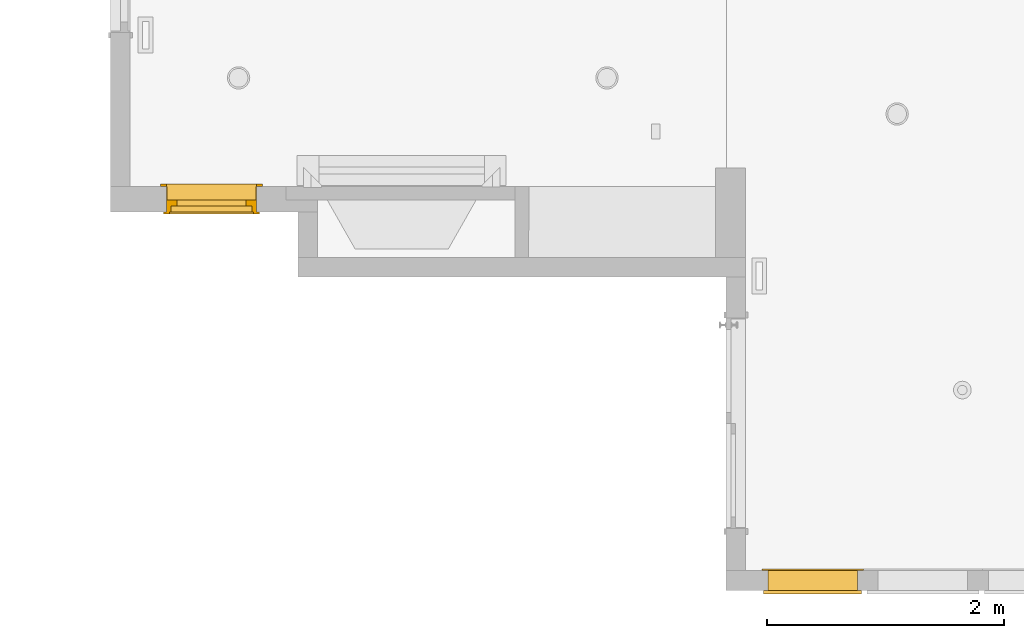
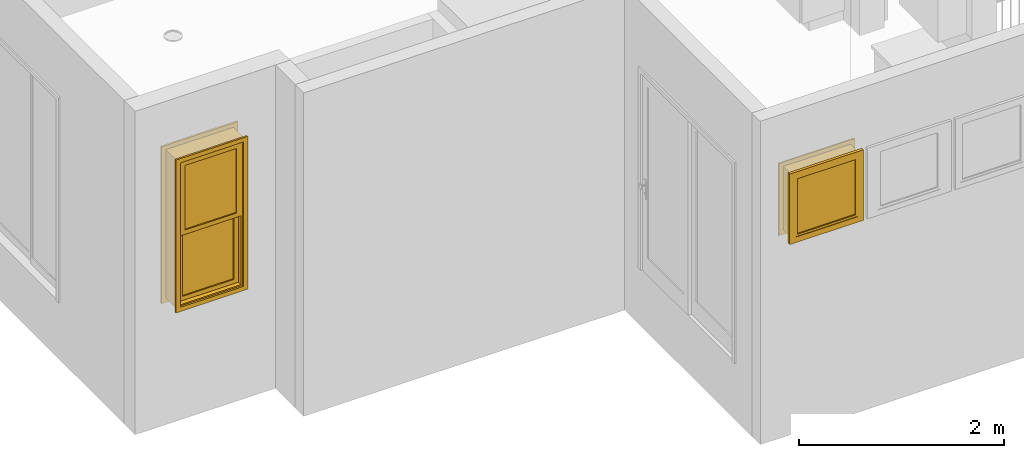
# One storey, part 32 of 77: 2 windows.
"""IFC2X3 building model written with IfcOpenShell, lengths in inches."""

import ifcopenshell
import ifcopenshell.guid

model = None  # the IFC model being written
_history = None  # IfcOwnerHistory: only IFC2X3 demands one
_inside = {}  # id of a spatial element -> (the spatial element, [elements in it])
_under = {}  # id of a project, library or spatial element -> (it, [spatial elements below it])
_declared = {}  # id of a project -> (the project, [libraries it declares])
_typed = {}  # id of a type object -> (the type object, [elements of that type])
_made_of = {}  # id of a material, layer set ... -> (it, [elements and type objects made of it])


def new_model(schema):
    """Start an empty IFC model of exactly this schema.

    Asked for "IFC4X3", IfcOpenShell would pick the latest addendum, in which some entities
    have other attributes; the version numbers below select the first issue.
    IFC2X3 requires an IfcOwnerHistory on every rooted entity: one is made here for all.
    """
    global model, _history
    if schema == "IFC4X3":
        model = ifcopenshell.file(schema_version=(4, 3, 0, 0))
    else:
        model = ifcopenshell.file(schema=schema)
    _inside.clear()
    _under.clear()
    _declared.clear()
    _typed.clear()
    _made_of.clear()
    _history = None
    if model.schema == "IFC2X3":
        org = make("IfcOrganization", Name="unknown")
        user = make(
            "IfcPersonAndOrganization",
            ThePerson=make("IfcPerson", FamilyName="unknown"),
            TheOrganization=org,
        )
        app = make(
            "IfcApplication",
            ApplicationDeveloper=org,
            Version="unknown",
            ApplicationFullName="unknown",
            ApplicationIdentifier="unknown",
        )
        _history = make(
            "IfcOwnerHistory",
            OwningUser=user,
            OwningApplication=app,
            ChangeAction="ADDED",
            CreationDate=0,
        )
    return model


def make(cls, **values):
    """One entity of the class cls with the attributes given. An attribute that is None is left unset."""
    return model.create_entity(
        cls, **{name: value for name, value in values.items() if value is not None}
    )


def entity(cls, *values):
    """Any entity or typed value of the class cls, its attributes in the order of the schema. None: left unset."""
    e = model.create_entity(cls)
    for i, value in enumerate(values):
        if value is not None:
            e[i] = value
    return e


def rooted(cls, **values):
    """An entity with a GlobalId (a new one), such as an element, a storey or a relation."""
    return make(cls, GlobalId=ifcopenshell.guid.new(), OwnerHistory=_history, **values)


def si_unit(unit_type, name, prefix=None):
    """IfcSIUnit, for example si_unit("LENGTHUNIT", "METRE", prefix="MILLI")."""
    return make("IfcSIUnit", UnitType=unit_type, Prefix=prefix, Name=name)


def converted_unit(unit_type, name, factor, base, dimensions=None, offset=None):
    """IfcConversionBasedUnit, such as the inch: factor (a typed value) times the base unit."""
    return make(
        "IfcConversionBasedUnit"
        if offset is None
        else "IfcConversionBasedUnitWithOffset",
        ConversionOffset=offset,
        Dimensions=None
        if dimensions is None
        else entity("IfcDimensionalExponents", *dimensions),
        UnitType=unit_type,
        Name=name,
        ConversionFactor=make(
            "IfcMeasureWithUnit", ValueComponent=factor, UnitComponent=base
        ),
    )


def derived_unit(unit_type, elements):
    """IfcDerivedUnit: a product of units, each with its exponent."""
    return make(
        "IfcDerivedUnit",
        Elements=[
            make("IfcDerivedUnitElement", Unit=unit, Exponent=power)
            for unit, power in elements
        ],
        UnitType=unit_type,
    )


def money_unit(currency):
    """IfcMonetaryUnit."""
    return make("IfcMonetaryUnit", Currency=currency)


def assignment(units):
    """IfcUnitAssignment: the units of a project."""
    return None if units is None else make("IfcUnitAssignment", Units=units)


def point(xyz):
    """IfcCartesianPoint."""
    return None if xyz is None else make("IfcCartesianPoint", Coordinates=xyz)


def direction(xyz):
    """IfcDirection."""
    return None if xyz is None else make("IfcDirection", DirectionRatios=xyz)


def frame(location, z_axis=None, x_axis=None):
    """IfcAxis2Placement3D, a coordinate frame: its origin and axes. An axis left out is left unset."""
    return make(
        "IfcAxis2Placement3D",
        Location=point(location),
        Axis=direction(z_axis),
        RefDirection=direction(x_axis),
    )


def origin_with_axes():
    """The frame at (0, 0, 0) with the z axis (0, 0, 1) and the x axis (1, 0, 0) written out."""
    return frame((0.0, 0.0, 0.0), z_axis=(0.0, 0.0, 1.0), x_axis=(1.0, 0.0, 0.0))


def place(relative_to, where):
    """IfcLocalPlacement: puts the frame where relative to a parent placement (None: the world)."""
    return make(
        "IfcLocalPlacement", PlacementRelTo=relative_to, RelativePlacement=where
    )


def context(
    kind, dimensions, precision=None, world=None, true_north=None, identifier=None
):
    """IfcGeometricRepresentationContext, for example the 3D "Model" context."""
    return make(
        "IfcGeometricRepresentationContext",
        ContextIdentifier=identifier,
        ContextType=kind,
        CoordinateSpaceDimension=dimensions,
        Precision=precision,
        WorldCoordinateSystem=world,
        TrueNorth=true_north,
    )


def subcontext(parent, identifier, kind, view, scale=None):
    """IfcGeometricRepresentationSubContext, for example "Body" below "Model"."""
    return make(
        "IfcGeometricRepresentationSubContext",
        ContextIdentifier=identifier,
        ContextType=kind,
        ParentContext=parent,
        TargetScale=scale,
        TargetView=view,
    )


def project(units=None, contexts=None):
    """IfcProject with its units and contexts."""
    return rooted(
        "IfcProject",
        Name="project",
        RepresentationContexts=contexts,
        UnitsInContext=assignment(units),
    )


def spatial(cls, under=None, at=None, **own):
    """A site, building, storey or space (cls), placed at a placement, below another one or the project."""
    s = rooted(cls, ObjectPlacement=at, **own)
    if under is not None:
        _under.setdefault(under.id(), (under, []))[1].append(s)
    return s


def faces_of(points, faces, orient=None, outer=None):
    """IfcFace entities. A face is a list of loops; a loop is a list of indices into points, from 0.

    orient and outer hold one flag for each loop. By default every Orientation is true, the
    first loop of a face is its IfcFaceOuterBound and the others are IfcFaceBound.
    """
    made = []
    for i, loops in enumerate(faces):
        bounds = []
        for j, loop in enumerate(loops):
            is_outer = j == 0 if outer is None else outer[i][j]
            bounds.append(
                make(
                    "IfcFaceOuterBound" if is_outer else "IfcFaceBound",
                    Bound=make("IfcPolyLoop", Polygon=[points[k] for k in loop]),
                    Orientation=True if orient is None else orient[i][j],
                )
            )
        made.append(make("IfcFace", Bounds=bounds))
    return made


def open_shell(faces, orient=None, outer=None):
    """The faces of one IfcOpenShell. surface_model builds it on its shared points."""
    return ("IfcOpenShell", faces, orient, outer)


def faceted_brep(points, faces, orient=None, outer=None, voids=None):
    """IfcFacetedBrep: a solid bounded by flat faces; with voids (closed shells), ...WithVoids."""
    shared = [point(p) for p in points]
    hull = make("IfcClosedShell", CfsFaces=faces_of(shared, faces, orient, outer))
    if voids is None:
        return make("IfcFacetedBrep", Outer=hull)
    return make(
        "IfcFacetedBrepWithVoids",
        Outer=hull,
        Voids=[
            make(cls, CfsFaces=faces_of(shared, fs, o, b)) for cls, fs, o, b in voids
        ],
    )


def surface_model(cls, points, shells):
    """IfcFaceBasedSurfaceModel or IfcShellBasedSurfaceModel (cls): surfaces that need not close."""
    shared = [point(p) for p in points]
    made = [make(c, CfsFaces=faces_of(shared, fs, o, b)) for c, fs, o, b in shells]
    if cls == "IfcFaceBasedSurfaceModel":
        return make(cls, FbsmFaces=made)
    return make(cls, SbsmBoundary=made)


def shape(context_of_items, identifier, shape_type, items):
    """IfcShapeRepresentation: the items that make up one representation, for example the "Body"."""
    return make(
        "IfcShapeRepresentation",
        ContextOfItems=context_of_items,
        RepresentationIdentifier=identifier,
        RepresentationType=shape_type,
        Items=items,
    )


def made_of(thing, what):
    """Note that an element or type object is made of a material, layer set ...; save() writes the relation."""
    if what is not None:
        _made_of.setdefault(what.id(), (what, []))[1].append(thing)
    return thing


def type_object(cls, material=None, **own):
    """A type object (cls), such as IfcWallType, which elements share."""
    return made_of(rooted(cls, **own), material)


def element(
    cls,
    number,
    at=None,
    inside=None,
    cuts=None,
    type_object=None,
    material=None,
    context=None,
    identifier="Body",
    shape_type=None,
    held_by="IfcProductDefinitionShape",
    body=None,
    shapes=None,
    **own,
):
    """One element of the class cls, such as IfcWall. Its Tag is "e" and its number.

    at: its placement. inside: the storey or other place that contains it. cuts: it is an
    opening in that element (IfcRelVoidsElement). A single representation is given by context,
    identifier, shape_type and body (its items); several are given by shapes. held_by: the class
    of the entity that holds the representations. save() writes the other relations.
    """
    e = rooted(cls, Tag="e%d" % number, ObjectPlacement=at, **own)
    if body is not None:
        shapes = [shape(context, identifier, shape_type, body)]
    if shapes is not None:
        e.Representation = make(held_by, Representations=shapes)
    if inside is not None:
        _inside.setdefault(inside.id(), (inside, []))[1].append(e)
    if cuts is not None:
        rooted(
            "IfcRelVoidsElement", RelatingBuildingElement=cuts, RelatedOpeningElement=e
        )
    if type_object is not None:
        _typed.setdefault(type_object.id(), (type_object, []))[1].append(e)
    return made_of(e, material)


def aggregate(whole, parts):
    """IfcRelAggregates: a whole, such as a stair, and the parts it consists of."""
    return rooted("IfcRelAggregates", RelatingObject=whole, RelatedObjects=parts)


def save(model, path):
    """Write the relations noted so far, then the file.

    IfcRelAggregates (storeys below a building ...), IfcRelContainedInSpatialStructure (elements
    in a storey), IfcRelDefinesByType, IfcRelAssociatesMaterial and IfcRelDeclares: one each for
    every whole, place, type object, material and project.
    """
    for whole, parts in _under.values():
        aggregate(whole, parts)
    for where, things in _inside.values():
        rooted(
            "IfcRelContainedInSpatialStructure",
            RelatedElements=things,
            RelatingStructure=where,
        )
    for kind, things in _typed.values():
        rooted("IfcRelDefinesByType", RelatedObjects=things, RelatingType=kind)
    for what, things in _made_of.values():
        rooted("IfcRelAssociatesMaterial", RelatedObjects=things, RelatingMaterial=what)
    for by, libraries in _declared.values():
        rooted("IfcRelDeclares", RelatingContext=by, RelatedDefinitions=libraries)
    model.write(path)


model = new_model("IFC2X3")

# Units and contexts
model_context = context("Model", 3, precision=0.000393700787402, world=origin_with_axes(), true_north=direction((0.0, 1.0)))
body_context = subcontext(model_context, "Body", "Model", "MODEL_VIEW")
ifc_project = project(units=[converted_unit("LENGTHUNIT", "INCH", entity("IfcPositiveLengthMeasure", 0.0254), si_unit("LENGTHUNIT", "METRE"), dimensions=[1, 0, 0, 0, 0, 0, 0]), converted_unit("AREAUNIT", "SQUARE_FOOT", entity("IfcPositiveLengthMeasure", 0.09290304), si_unit("AREAUNIT", "SQUARE_METRE"), dimensions=[2, 0, 0, 0, 0, 0, 0]), si_unit("PLANEANGLEUNIT", "RADIAN"), si_unit("SOLIDANGLEUNIT", "STERADIAN"), money_unit("USD"), converted_unit("TIMEUNIT", "Year", entity("IfcTimeMeasure", 31556926.0), si_unit("TIMEUNIT", "SECOND"), dimensions=[0, 0, 1, 0, 0, 0, 0]), si_unit("MASSUNIT", "GRAM", prefix="KILO"), si_unit("THERMODYNAMICTEMPERATUREUNIT", "DEGREE_CELSIUS"), si_unit("LUMINOUSINTENSITYUNIT", "LUMEN"), si_unit("ENERGYUNIT", "JOULE", prefix="MEGA"), derived_unit("THERMALCONDUCTANCEUNIT", [(si_unit("POWERUNIT", "WATT"), 1), (si_unit("LENGTHUNIT", "METRE"), -1), (si_unit("THERMODYNAMICTEMPERATUREUNIT", "KELVIN"), -1)]), derived_unit("SPECIFICHEATCAPACITYUNIT", [(si_unit("ENERGYUNIT", "JOULE"), 1), (si_unit("MASSUNIT", "GRAM", prefix="KILO"), -1), (si_unit("THERMODYNAMICTEMPERATUREUNIT", "KELVIN"), -1)]), derived_unit("MASSDENSITYUNIT", [(si_unit("MASSUNIT", "GRAM", prefix="KILO"), 1), (si_unit("VOLUMEUNIT", "CUBIC_METRE"), -1)])], contexts=[model_context])

# Site, building, storey
site_placement = place(None, origin_with_axes())
site = spatial("IfcSite", under=ifc_project, at=site_placement, Name="Site", CompositionType="ELEMENT")
building_placement = place(site_placement, origin_with_axes())
building = spatial("IfcBuilding", under=site, at=building_placement, Name="Building", CompositionType="ELEMENT")
storey_placement = place(building_placement, frame((0.0, 0.0, 127.952755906), z_axis=(0.0, 0.0, 1.0), x_axis=(1.0, 0.0, 0.0)))
storey = spatial("IfcBuildingStorey", under=building, at=storey_placement, Name="Second Floor", CompositionType="ELEMENT", Elevation=127.953)

# Windows
window_style_1 = type_object("IfcWindowStyle", Name="Double-Hung Window 25", ConstructionType="NOTDEFINED", OperationType="DOUBLE_PANEL_HORIZONTAL", ParameterTakesPrecedence=False, Sizeable=False)
window_1_placement = place(storey_placement, frame((296.411573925, 147.162414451, 25.3984469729), z_axis=(0.0, 0.0, 1.0), x_axis=(0.999999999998, -1.84812908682e-06, 0.0)))
element("IfcWindow", 1, at=window_1_placement, inside=storey, type_object=window_style_1, Name="W-07", OverallHeight=69.685, OverallWidth=29.9213, context=body_context, shape_type="SurfaceModel", body=[
    faceted_brep([(29.9212598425, -4.52755905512, 0.0), (0.0, -4.52755905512, 0.0), (0.0, 0.0, 0.0), (29.9212598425, 0.0, 0.0), (29.9212598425, -4.52755905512, 69.6850393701), (0.0, -4.52755905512, 69.6850393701), (29.7244094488, -4.52755905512, 0.196850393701), (0.196850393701, -4.52755905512, 0.196850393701), (0.196850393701, -4.52755905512, 69.4881889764), (29.7244094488, -4.52755905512, 69.4881889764), (0.0, 0.0, 69.6850393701), (29.9212598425, 0.0, 69.6850393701), (29.7244094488, 0.0, 0.196850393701), (29.7244094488, 0.0, 69.4881889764), (0.196850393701, 0.0, 69.4881889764), (0.196850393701, 0.0, 0.196850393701)], [[[0, 1, 2, 3]], [[0, 4, 5, 1], [6, 7, 8, 9]], [[1, 5, 10, 2]], [[3, 2, 10, 11], [12, 13, 14, 15]], [[4, 0, 3, 11]], [[5, 4, 11, 10]], [[7, 6, 12, 15]], [[8, 7, 15, 14]], [[9, 8, 14, 13]], [[6, 9, 13, 12]]]),
    faceted_brep([(31.8897637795, 0.787401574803, -1.96850393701), (31.8897637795, 0.0, -1.96850393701), (29.9212598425, 0.0, 0.0), (29.9212598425, 0.787401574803, 0.0), (31.8897637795, 0.787401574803, 71.6535433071), (31.8897637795, 0.0, 71.6535433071), (29.9212598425, 0.0, 69.6850393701), (29.9212598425, 0.787401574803, 69.6850393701)], [[[0, 1, 2, 3]], [[4, 5, 1, 0]], [[1, 5, 6, 2]], [[3, 2, 6, 7]], [[0, 3, 7, 4]], [[7, 6, 5, 4]]]),
    faceted_brep([(-1.96850393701, 0.787401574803, 71.6535433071), (-1.96850393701, 0.0, 71.6535433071), (0.0, 0.0, 69.6850393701), (0.0, 0.787401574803, 69.6850393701), (-1.96850393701, 0.787401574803, -1.96850393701), (-1.96850393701, 0.0, -1.96850393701), (0.0, 0.0, 0.0), (0.0, 0.787401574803, 0.0)], [[[0, 1, 2, 3]], [[4, 5, 1, 0]], [[1, 5, 6, 2]], [[3, 2, 6, 7]], [[0, 3, 7, 4]], [[7, 6, 5, 4]]]),
    faceted_brep([(-1.96850393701, 0.787401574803, -1.96850393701), (-1.96850393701, 0.0, -1.96850393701), (0.0, 0.0, 0.0), (0.0, 0.787401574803, 0.0), (31.8897637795, 0.787401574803, -1.96850393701), (31.8897637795, 0.0, -1.96850393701), (29.9212598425, 0.0, 0.0), (29.9212598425, 0.787401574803, 0.0)], [[[0, 1, 2, 3]], [[4, 5, 1, 0]], [[1, 5, 6, 2]], [[3, 2, 6, 7]], [[0, 3, 7, 4]], [[7, 6, 5, 4]]]),
    faceted_brep([(31.8897637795, 0.787401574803, 71.6535433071), (31.8897637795, 0.0, 71.6535433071), (29.9212598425, 0.0, 69.6850393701), (29.9212598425, 0.787401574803, 69.6850393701), (-1.96850393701, 0.787401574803, 71.6535433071), (-1.96850393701, 0.0, 71.6535433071), (0.0, 0.0, 69.6850393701), (0.0, 0.787401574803, 69.6850393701)], [[[0, 1, 2, 3]], [[4, 5, 1, 0]], [[1, 5, 6, 2]], [[3, 2, 6, 7]], [[0, 3, 7, 4]], [[7, 6, 5, 4]]]),
    faceted_brep([(30.905511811, -9.25196850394, -0.984251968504), (28.937007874, -9.25196850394, 0.984251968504), (28.937007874, -8.46456692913, 0.984251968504), (30.905511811, -8.46456692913, -0.984251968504), (30.905511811, -9.25196850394, 70.6692913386), (28.937007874, -9.25196850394, 68.7007874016), (28.937007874, -8.46456692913, 68.7007874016), (30.905511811, -8.46456692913, 70.6692913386)], [[[0, 1, 2, 3]], [[0, 4, 5, 1]], [[1, 5, 6, 2]], [[3, 2, 6, 7]], [[4, 0, 3, 7]], [[5, 4, 7, 6]]]),
    faceted_brep([(-0.984251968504, -9.25196850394, 70.6692913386), (0.984251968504, -9.25196850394, 68.7007874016), (0.984251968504, -8.46456692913, 68.7007874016), (-0.984251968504, -8.46456692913, 70.6692913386), (-0.984251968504, -9.25196850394, -0.984251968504), (0.984251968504, -9.25196850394, 0.984251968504), (0.984251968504, -8.46456692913, 0.984251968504), (-0.984251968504, -8.46456692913, -0.984251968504)], [[[0, 1, 2, 3]], [[0, 4, 5, 1]], [[1, 5, 6, 2]], [[3, 2, 6, 7]], [[4, 0, 3, 7]], [[5, 4, 7, 6]]]),
    faceted_brep([(-0.984251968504, -9.25196850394, -0.984251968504), (0.984251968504, -9.25196850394, 0.984251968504), (0.984251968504, -8.46456692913, 0.984251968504), (-0.984251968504, -8.46456692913, -0.984251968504), (30.905511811, -9.25196850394, -0.984251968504), (28.937007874, -9.25196850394, 0.984251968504), (28.937007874, -8.46456692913, 0.984251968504), (30.905511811, -8.46456692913, -0.984251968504)], [[[0, 1, 2, 3]], [[0, 4, 5, 1]], [[1, 5, 6, 2]], [[3, 2, 6, 7]], [[4, 0, 3, 7]], [[5, 4, 7, 6]]]),
    faceted_brep([(30.905511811, -9.25196850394, 70.6692913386), (28.937007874, -9.25196850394, 68.7007874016), (28.937007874, -8.46456692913, 68.7007874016), (30.905511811, -8.46456692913, 70.6692913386), (-0.984251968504, -9.25196850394, 70.6692913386), (0.984251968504, -9.25196850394, 68.7007874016), (0.984251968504, -8.46456692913, 68.7007874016), (-0.984251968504, -8.46456692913, 70.6692913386)], [[[0, 1, 2, 3]], [[0, 4, 5, 1]], [[1, 5, 6, 2]], [[3, 2, 6, 7]], [[4, 0, 3, 7]], [[5, 4, 7, 6]]]),
    faceted_brep([(28.3464566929, -8.46456692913, 68.1102362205), (29.9212598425, -8.46456692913, 68.1102362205), (29.9212598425, -4.52755905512, 68.1102362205), (28.3464566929, -4.52755905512, 68.1102362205), (28.3464566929, -8.46456692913, 1.57480314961), (29.9212598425, -8.46456692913, 1.57480314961), (29.9212598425, -4.52755905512, 1.57480314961), (28.3464566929, -4.52755905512, 1.57480314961)], [[[0, 1, 2, 3]], [[0, 4, 5, 1]], [[1, 5, 6, 2]], [[3, 2, 6, 7]], [[4, 0, 3, 7]], [[5, 4, 7, 6]]]),
    faceted_brep([(1.57480314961, -8.46456692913, 1.57480314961), (0.0, -8.46456692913, 1.57480314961), (0.0, -4.52755905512, 1.57480314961), (1.57480314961, -4.52755905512, 1.57480314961), (1.57480314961, -8.46456692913, 68.1102362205), (0.0, -8.46456692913, 68.1102362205), (0.0, -4.52755905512, 68.1102362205), (1.57480314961, -4.52755905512, 68.1102362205)], [[[0, 1, 2, 3]], [[0, 4, 5, 1]], [[1, 5, 6, 2]], [[3, 2, 6, 7]], [[4, 0, 3, 7]], [[5, 4, 7, 6]]]),
    faceted_brep([(28.3464566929, -8.46456692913, 1.57480314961), (29.9212598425, -8.46456692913, 1.57480314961), (29.9212598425, -4.52755905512, 1.57480314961), (28.3464566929, -4.52755905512, 1.57480314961), (1.57480314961, -8.46456692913, 1.57480314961), (0.0, -8.46456692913, 1.57480314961), (0.0, -8.46456692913, 0.0), (29.9212598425, -8.46456692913, 0.0), (29.9212598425, -4.52755905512, 0.0), (0.0, -4.52755905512, 0.0), (0.0, -4.52755905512, 1.57480314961), (1.57480314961, -4.52755905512, 1.57480314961)], [[[0, 1, 2, 3]], [[0, 4, 5, 6, 7, 1]], [[1, 7, 8, 2]], [[3, 2, 8, 9, 10, 11]], [[4, 0, 3, 11]], [[5, 4, 11, 10]], [[6, 5, 10, 9]], [[7, 6, 9, 8]]]),
    faceted_brep([(1.57480314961, -8.46456692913, 68.1102362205), (0.0, -8.46456692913, 68.1102362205), (0.0, -4.52755905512, 68.1102362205), (1.57480314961, -4.52755905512, 68.1102362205), (28.3464566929, -8.46456692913, 68.1102362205), (29.9212598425, -8.46456692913, 68.1102362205), (29.9212598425, -8.46456692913, 69.6850393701), (0.0, -8.46456692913, 69.6850393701), (0.0, -4.52755905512, 69.6850393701), (29.9212598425, -4.52755905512, 69.6850393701), (29.9212598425, -4.52755905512, 68.1102362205), (28.3464566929, -4.52755905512, 68.1102362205)], [[[0, 1, 2, 3]], [[0, 4, 5, 6, 7, 1]], [[1, 7, 8, 2]], [[3, 2, 8, 9, 10, 11]], [[4, 0, 3, 11]], [[5, 4, 11, 10]], [[6, 5, 10, 9]], [[7, 6, 9, 8]]]),
    faceted_brep([(26.3779527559, -6.49606299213, 33.8582677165), (28.3464566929, -6.49606299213, 33.8582677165), (28.3464566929, -4.52755905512, 33.8582677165), (26.3779527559, -4.52755905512, 33.8582677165), (26.3779527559, -6.49606299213, 3.54330708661), (28.3464566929, -6.49606299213, 3.54330708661), (28.3464566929, -4.52755905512, 3.54330708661), (26.3779527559, -4.52755905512, 3.54330708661)], [[[0, 1, 2, 3]], [[0, 4, 5, 1]], [[1, 5, 6, 2]], [[3, 2, 6, 7]], [[4, 0, 3, 7]], [[5, 4, 7, 6]]]),
    faceted_brep([(3.54330708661, -6.49606299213, 3.54330708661), (1.57480314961, -6.49606299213, 3.54330708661), (1.57480314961, -4.52755905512, 3.54330708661), (3.54330708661, -4.52755905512, 3.54330708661), (3.54330708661, -6.49606299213, 33.8582677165), (1.57480314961, -6.49606299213, 33.8582677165), (1.57480314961, -4.52755905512, 33.8582677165), (3.54330708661, -4.52755905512, 33.8582677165)], [[[0, 1, 2, 3]], [[0, 4, 5, 1]], [[1, 5, 6, 2]], [[3, 2, 6, 7]], [[4, 0, 3, 7]], [[5, 4, 7, 6]]]),
    faceted_brep([(1.57480314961, -6.49606299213, 1.57480314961), (1.57480314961, -6.49606299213, 3.54330708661), (1.57480314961, -4.52755905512, 3.54330708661), (1.57480314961, -4.52755905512, 1.57480314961), (28.3464566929, -6.49606299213, 1.57480314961), (28.3464566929, -6.49606299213, 3.54330708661), (26.3779527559, -6.49606299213, 3.54330708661), (3.54330708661, -6.49606299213, 3.54330708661), (3.54330708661, -4.52755905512, 3.54330708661), (26.3779527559, -4.52755905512, 3.54330708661), (28.3464566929, -4.52755905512, 3.54330708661), (28.3464566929, -4.52755905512, 1.57480314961)], [[[0, 1, 2, 3]], [[0, 4, 5, 6, 7, 1]], [[1, 7, 8, 2]], [[3, 2, 8, 9, 10, 11]], [[4, 0, 3, 11]], [[5, 4, 11, 10]], [[6, 5, 10, 9]], [[7, 6, 9, 8]]]),
    faceted_brep([(28.3464566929, -6.49606299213, 35.8267716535), (28.3464566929, -6.49606299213, 33.8582677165), (28.3464566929, -4.52755905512, 33.8582677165), (28.3464566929, -4.52755905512, 35.8267716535), (1.57480314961, -6.49606299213, 35.8267716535), (1.57480314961, -6.49606299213, 33.8582677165), (3.54330708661, -6.49606299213, 33.8582677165), (26.3779527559, -6.49606299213, 33.8582677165), (26.3779527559, -4.52755905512, 33.8582677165), (3.54330708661, -4.52755905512, 33.8582677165), (1.57480314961, -4.52755905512, 33.8582677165), (1.57480314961, -4.52755905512, 35.8267716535)], [[[0, 1, 2, 3]], [[0, 4, 5, 6, 7, 1]], [[1, 7, 8, 2]], [[3, 2, 8, 9, 10, 11]], [[4, 0, 3, 11]], [[5, 4, 11, 10]], [[6, 5, 10, 9]], [[7, 6, 9, 8]]]),
    surface_model("IfcShellBasedSurfaceModel", [(26.3779527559, -5.90551181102, 3.54330708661), (26.3779527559, -5.90551181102, 33.8582677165), (3.54330708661, -5.90551181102, 33.8582677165), (3.54330708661, -5.90551181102, 3.54330708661)], [open_shell([[[0, 1, 2, 3]]])]),
    surface_model("IfcShellBasedSurfaceModel", [(26.3779527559, -5.11811023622, 3.54330708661), (3.54330708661, -5.11811023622, 3.54330708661), (3.54330708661, -5.11811023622, 33.8582677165), (26.3779527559, -5.11811023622, 33.8582677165)], [open_shell([[[0, 1, 2, 3]]])]),
    faceted_brep([(26.3779527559, -8.46456692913, 66.1417322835), (28.3464566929, -8.46456692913, 66.1417322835), (28.3464566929, -6.49606299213, 66.1417322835), (26.3779527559, -6.49606299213, 66.1417322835), (26.3779527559, -8.46456692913, 35.8267716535), (28.3464566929, -8.46456692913, 35.8267716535), (28.3464566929, -6.49606299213, 35.8267716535), (26.3779527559, -6.49606299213, 35.8267716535)], [[[0, 1, 2, 3]], [[0, 4, 5, 1]], [[1, 5, 6, 2]], [[3, 2, 6, 7]], [[4, 0, 3, 7]], [[5, 4, 7, 6]]]),
    faceted_brep([(3.54330708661, -8.46456692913, 35.8267716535), (1.57480314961, -8.46456692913, 35.8267716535), (1.57480314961, -6.49606299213, 35.8267716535), (3.54330708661, -6.49606299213, 35.8267716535), (3.54330708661, -8.46456692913, 66.1417322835), (1.57480314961, -8.46456692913, 66.1417322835), (1.57480314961, -6.49606299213, 66.1417322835), (3.54330708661, -6.49606299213, 66.1417322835)], [[[0, 1, 2, 3]], [[0, 4, 5, 1]], [[1, 5, 6, 2]], [[3, 2, 6, 7]], [[4, 0, 3, 7]], [[5, 4, 7, 6]]]),
    faceted_brep([(1.57480314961, -8.46456692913, 33.8582677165), (1.57480314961, -8.46456692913, 35.8267716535), (1.57480314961, -6.49606299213, 35.8267716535), (1.57480314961, -6.49606299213, 33.8582677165), (28.3464566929, -8.46456692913, 33.8582677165), (28.3464566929, -8.46456692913, 35.8267716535), (26.3779527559, -8.46456692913, 35.8267716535), (3.54330708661, -8.46456692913, 35.8267716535), (3.54330708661, -6.49606299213, 35.8267716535), (26.3779527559, -6.49606299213, 35.8267716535), (28.3464566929, -6.49606299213, 35.8267716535), (28.3464566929, -6.49606299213, 33.8582677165)], [[[0, 1, 2, 3]], [[0, 4, 5, 6, 7, 1]], [[1, 7, 8, 2]], [[3, 2, 8, 9, 10, 11]], [[4, 0, 3, 11]], [[5, 4, 11, 10]], [[6, 5, 10, 9]], [[7, 6, 9, 8]]]),
    faceted_brep([(28.3464566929, -8.46456692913, 68.1102362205), (28.3464566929, -8.46456692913, 66.1417322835), (28.3464566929, -6.49606299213, 66.1417322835), (28.3464566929, -6.49606299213, 68.1102362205), (1.57480314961, -8.46456692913, 68.1102362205), (1.57480314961, -8.46456692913, 66.1417322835), (3.54330708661, -8.46456692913, 66.1417322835), (26.3779527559, -8.46456692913, 66.1417322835), (26.3779527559, -6.49606299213, 66.1417322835), (3.54330708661, -6.49606299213, 66.1417322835), (1.57480314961, -6.49606299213, 66.1417322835), (1.57480314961, -6.49606299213, 68.1102362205)], [[[0, 1, 2, 3]], [[0, 4, 5, 6, 7, 1]], [[1, 7, 8, 2]], [[3, 2, 8, 9, 10, 11]], [[4, 0, 3, 11]], [[5, 4, 11, 10]], [[6, 5, 10, 9]], [[7, 6, 9, 8]]]),
    surface_model("IfcShellBasedSurfaceModel", [(26.3779527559, -7.87401574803, 35.8267716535), (26.3779527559, -7.87401574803, 66.1417322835), (3.54330708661, -7.87401574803, 66.1417322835), (3.54330708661, -7.87401574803, 35.8267716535)], [open_shell([[[0, 1, 2, 3]]])]),
    surface_model("IfcShellBasedSurfaceModel", [(26.3779527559, -7.08661417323, 35.8267716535), (3.54330708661, -7.08661417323, 35.8267716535), (3.54330708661, -7.08661417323, 66.1417322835), (26.3779527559, -7.08661417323, 66.1417322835)], [open_shell([[[0, 1, 2, 3]]])]),
])
window_style_2 = type_object("IfcWindowStyle", Name="Window 25", ConstructionType="NOTDEFINED", OperationType="SINGLE_PANEL", ParameterTakesPrecedence=False, Sizeable=False)
window_2_placement = place(storey_placement, frame((526.075906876, 19.407283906, 64.7628696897), z_axis=(0.0, 0.0, 1.0), x_axis=(-0.999999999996, -2.92832620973e-06, 0.0)))
element("IfcWindow", 2, at=window_2_placement, inside=storey, type_object=window_style_2, Name="W-08", OverallHeight=29.9222, OverallWidth=29.7244, context=body_context, shape_type="SurfaceModel", body=[
    faceted_brep([(0.0, 0.397637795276, 0.0), (29.7244094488, 0.397637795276, 0.0), (29.7244094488, 0.0, 0.0), (0.0, 0.0, 0.0), (0.0, 0.397637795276, 29.9221696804), (29.7244094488, 0.397637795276, 29.9221696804), (0.196850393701, 0.397637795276, 0.196850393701), (29.5275590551, 0.397637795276, 0.196850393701), (29.5275590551, 0.397637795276, 29.7253192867), (0.196850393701, 0.397637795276, 29.7253192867), (29.7244094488, 0.0, 29.9221696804), (0.0, 0.0, 29.9221696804), (0.196850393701, 0.0, 0.196850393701), (0.196850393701, 0.0, 29.7253192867), (29.5275590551, 0.0, 29.7253192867), (29.5275590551, 0.0, 0.196850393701)], [[[0, 1, 2, 3]], [[0, 4, 5, 1], [6, 7, 8, 9]], [[1, 5, 10, 2]], [[3, 2, 10, 11], [12, 13, 14, 15]], [[4, 0, 3, 11]], [[5, 4, 11, 10]], [[7, 6, 12, 15]], [[8, 7, 15, 14]], [[9, 8, 14, 13]], [[6, 9, 13, 12]]]),
    faceted_brep([(-1.96850393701, -0.590551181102, -1.96850393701), (-1.96850393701, 0.0, -1.96850393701), (0.0, 0.0, 0.0), (0.0, -0.590551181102, 0.0), (-1.96850393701, -0.590551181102, 31.8906736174), (-1.96850393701, 0.0, 31.8906736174), (0.0, 0.0, 29.9221696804), (0.0, -0.590551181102, 29.9221696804)], [[[0, 1, 2, 3]], [[4, 5, 1, 0]], [[1, 5, 6, 2]], [[3, 2, 6, 7]], [[0, 3, 7, 4]], [[7, 6, 5, 4]]]),
    faceted_brep([(31.6929133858, -0.590551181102, 31.8906736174), (31.6929133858, 0.0, 31.8906736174), (29.7244094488, 0.0, 29.9221696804), (29.7244094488, -0.590551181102, 29.9221696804), (31.6929133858, -0.590551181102, -1.96850393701), (31.6929133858, 0.0, -1.96850393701), (29.7244094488, 0.0, 0.0), (29.7244094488, -0.590551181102, 0.0)], [[[0, 1, 2, 3]], [[4, 5, 1, 0]], [[1, 5, 6, 2]], [[3, 2, 6, 7]], [[0, 3, 7, 4]], [[7, 6, 5, 4]]]),
    faceted_brep([(31.6929133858, -0.590551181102, -1.96850393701), (31.6929133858, 0.0, -1.96850393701), (29.7244094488, 0.0, 0.0), (29.7244094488, -0.590551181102, 0.0), (-1.96850393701, -0.590551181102, -1.96850393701), (-1.96850393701, 0.0, -1.96850393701), (0.0, 0.0, 0.0), (0.0, -0.590551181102, 0.0)], [[[0, 1, 2, 3]], [[4, 5, 1, 0]], [[1, 5, 6, 2]], [[3, 2, 6, 7]], [[0, 3, 7, 4]], [[7, 6, 5, 4]]]),
    faceted_brep([(-1.96850393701, -0.590551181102, 31.8906736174), (-1.96850393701, 0.0, 31.8906736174), (0.0, 0.0, 29.9221696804), (0.0, -0.590551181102, 29.9221696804), (31.6929133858, -0.590551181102, 31.8906736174), (31.6929133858, 0.0, 31.8906736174), (29.7244094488, 0.0, 29.9221696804), (29.7244094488, -0.590551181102, 29.9221696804)], [[[0, 1, 2, 3]], [[4, 5, 1, 0]], [[1, 5, 6, 2]], [[3, 2, 6, 7]], [[0, 3, 7, 4]], [[7, 6, 5, 4]]]),
    faceted_brep([(-1.37795275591, 7.6811023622, -1.57480314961), (0.984251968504, 7.6811023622, 0.984251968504), (0.984251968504, 6.5, 0.984251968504), (-1.37795275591, 6.5, -1.57480314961), (-1.37795275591, 7.6811023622, 31.49697283), (0.984251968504, 7.6811023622, 28.9379177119), (0.984251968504, 6.5, 28.9379177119), (-1.37795275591, 6.5, 31.49697283)], [[[0, 1, 2, 3]], [[0, 4, 5, 1]], [[1, 5, 6, 2]], [[3, 2, 6, 7]], [[4, 0, 3, 7]], [[5, 4, 7, 6]]]),
    faceted_brep([(31.2992125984, 7.6811023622, 31.49697283), (28.7401574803, 7.6811023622, 28.9379177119), (28.7401574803, 6.5, 28.9379177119), (31.2992125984, 6.5, 31.49697283), (31.2992125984, 7.6811023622, -1.57480314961), (28.7401574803, 7.6811023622, 0.984251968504), (28.7401574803, 6.5, 0.984251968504), (31.2992125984, 6.5, -1.57480314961)], [[[0, 1, 2, 3]], [[0, 4, 5, 1]], [[1, 5, 6, 2]], [[3, 2, 6, 7]], [[4, 0, 3, 7]], [[5, 4, 7, 6]]]),
    faceted_brep([(31.2992125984, 7.6811023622, -1.57480314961), (28.7401574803, 7.6811023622, 0.984251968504), (28.7401574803, 6.5, 0.984251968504), (31.2992125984, 6.5, -1.57480314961), (-1.37795275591, 7.6811023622, -1.57480314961), (0.984251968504, 7.6811023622, 0.984251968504), (0.984251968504, 6.5, 0.984251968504), (-1.37795275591, 6.5, -1.57480314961)], [[[0, 1, 2, 3]], [[0, 4, 5, 1]], [[1, 5, 6, 2]], [[3, 2, 6, 7]], [[4, 0, 3, 7]], [[5, 4, 7, 6]]]),
    faceted_brep([(-1.37795275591, 7.6811023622, 31.49697283), (0.984251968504, 7.6811023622, 28.9379177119), (0.984251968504, 6.5, 28.9379177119), (-1.37795275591, 6.5, 31.49697283), (31.2992125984, 7.6811023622, 31.49697283), (28.7401574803, 7.6811023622, 28.9379177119), (28.7401574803, 6.5, 28.9379177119), (31.2992125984, 6.5, 31.49697283)], [[[0, 1, 2, 3]], [[0, 4, 5, 1]], [[1, 5, 6, 2]], [[3, 2, 6, 7]], [[4, 0, 3, 7]], [[5, 4, 7, 6]]]),
    faceted_brep([(0.196850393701, 6.5, 28.7410673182), (0.0, 6.5, 28.7410673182), (0.0, 0.397637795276, 28.7410673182), (1.1811023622, 0.397637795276, 28.7410673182), (1.1811023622, 5.5157480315, 28.7410673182), (0.196850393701, 5.5157480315, 28.7410673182), (0.196850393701, 6.5, 1.1811023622), (0.0, 6.5, 1.1811023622), (0.0, 0.397637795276, 1.1811023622), (1.1811023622, 0.397637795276, 1.1811023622), (1.1811023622, 5.5157480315, 1.1811023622), (0.196850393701, 5.5157480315, 1.1811023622)], [[[0, 1, 2, 3, 4, 5]], [[6, 7, 1, 0]], [[1, 7, 8, 2]], [[2, 8, 9, 3]], [[4, 3, 9, 10]], [[10, 11, 5, 4]], [[5, 11, 6, 0]], [[11, 10, 9, 8, 7, 6]]]),
    faceted_brep([(28.5433070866, 5.5157480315, 28.7410673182), (28.5433070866, 0.397637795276, 28.7410673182), (29.7244094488, 0.397637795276, 28.7410673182), (29.7244094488, 6.5, 28.7410673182), (29.5275590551, 6.5, 28.7410673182), (29.5275590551, 5.5157480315, 28.7410673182), (28.5433070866, 5.5157480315, 1.1811023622), (28.5433070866, 0.397637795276, 1.1811023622), (29.7244094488, 0.397637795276, 1.1811023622), (29.7244094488, 6.5, 1.1811023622), (29.5275590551, 6.5, 1.1811023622), (29.5275590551, 5.5157480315, 1.1811023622)], [[[0, 1, 2, 3, 4, 5]], [[6, 7, 1, 0]], [[8, 2, 1, 7]], [[9, 3, 2, 8]], [[4, 3, 9, 10]], [[10, 11, 5, 4]], [[5, 11, 6, 0]], [[11, 10, 9, 8, 7, 6]]]),
    faceted_brep([(28.5433070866, 5.5157480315, 1.1811023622), (28.5433070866, 0.397637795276, 1.1811023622), (29.7244094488, 0.397637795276, 1.1811023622), (29.7244094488, 6.5, 1.1811023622), (29.5275590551, 6.5, 1.1811023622), (29.5275590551, 5.5157480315, 1.1811023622), (1.1811023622, 5.5157480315, 1.1811023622), (1.1811023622, 0.397637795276, 1.1811023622), (0.0, 0.397637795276, 1.1811023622), (0.0, 0.397637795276, 0.0), (29.7244094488, 0.397637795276, 0.0), (29.7244094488, 6.5, 0.0), (0.196850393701, 6.5, 0.196850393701), (29.5275590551, 6.5, 0.196850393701), (0.0, 6.5, 0.0), (0.0, 6.5, 1.1811023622), (0.196850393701, 6.5, 1.1811023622), (29.5275590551, 5.5157480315, 0.196850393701), (0.196850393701, 5.5157480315, 0.196850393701), (0.196850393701, 5.5157480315, 1.1811023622)], [[[0, 1, 2, 3, 4, 5]], [[6, 7, 1, 0]], [[8, 9, 10, 2, 1, 7]], [[11, 3, 2, 10]], [[12, 13, 4, 3, 11, 14, 15, 16]], [[13, 17, 5, 4]], [[5, 17, 18, 19, 6, 0]], [[19, 16, 15, 8, 7, 6]], [[15, 14, 9, 8]], [[14, 11, 10, 9]], [[12, 18, 17, 13]], [[19, 18, 12, 16]]]),
    faceted_brep([(0.196850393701, 6.5, 28.7410673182), (0.0, 6.5, 28.7410673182), (0.0, 6.5, 29.9221696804), (29.7244094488, 6.5, 29.9221696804), (29.7244094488, 6.5, 28.7410673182), (29.5275590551, 6.5, 28.7410673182), (29.5275590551, 6.5, 29.7253192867), (0.196850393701, 6.5, 29.7253192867), (0.196850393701, 5.5157480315, 28.7410673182), (1.1811023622, 5.5157480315, 28.7410673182), (1.1811023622, 0.397637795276, 28.7410673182), (0.0, 0.397637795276, 28.7410673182), (0.0, 0.397637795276, 29.9221696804), (29.7244094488, 0.397637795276, 29.9221696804), (29.7244094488, 0.397637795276, 28.7410673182), (29.5275590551, 5.5157480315, 28.7410673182), (28.5433070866, 0.397637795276, 28.7410673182), (28.5433070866, 5.5157480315, 28.7410673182), (29.5275590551, 5.5157480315, 29.7253192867), (0.196850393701, 5.5157480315, 29.7253192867)], [[[0, 1, 2, 3, 4, 5, 6, 7]], [[8, 9, 10, 11, 1, 0]], [[2, 1, 11, 12]], [[3, 2, 12, 13]], [[4, 3, 13, 14]], [[15, 5, 4, 14, 16, 17]], [[5, 15, 18, 6]], [[6, 18, 19, 7]], [[7, 19, 8, 0]], [[17, 9, 8, 19, 18, 15]], [[17, 16, 10, 9]], [[14, 13, 12, 11, 10, 16]]]),
    faceted_brep([(1.96850393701, 5.5157480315, 27.9536657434), (1.96850393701, 7.4842519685, 27.9536657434), (0.196850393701, 7.4842519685, 27.9536657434), (0.196850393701, 5.5157480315, 27.9536657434), (1.96850393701, 5.5157480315, 1.96850393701), (1.96850393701, 7.4842519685, 1.96850393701), (0.196850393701, 7.4842519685, 1.96850393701), (0.196850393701, 5.5157480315, 1.96850393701)], [[[0, 1, 2, 3]], [[4, 5, 1, 0]], [[1, 5, 6, 2]], [[3, 2, 6, 7]], [[0, 3, 7, 4]], [[7, 6, 5, 4]]]),
    faceted_brep([(27.7559055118, 5.5157480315, 1.96850393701), (27.7559055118, 7.4842519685, 1.96850393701), (29.5275590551, 7.4842519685, 1.96850393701), (29.5275590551, 5.5157480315, 1.96850393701), (27.7559055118, 5.5157480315, 27.9536657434), (27.7559055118, 7.4842519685, 27.9536657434), (29.5275590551, 7.4842519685, 27.9536657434), (29.5275590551, 5.5157480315, 27.9536657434)], [[[0, 1, 2, 3]], [[4, 5, 1, 0]], [[1, 5, 6, 2]], [[3, 2, 6, 7]], [[0, 3, 7, 4]], [[7, 6, 5, 4]]]),
    faceted_brep([(29.5275590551, 5.5157480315, 0.196850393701), (29.5275590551, 7.4842519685, 0.196850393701), (29.5275590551, 7.4842519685, 1.96850393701), (29.5275590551, 5.5157480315, 1.96850393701), (0.196850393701, 5.5157480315, 0.196850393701), (0.196850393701, 7.4842519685, 0.196850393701), (0.196850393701, 7.4842519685, 1.96850393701), (1.96850393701, 7.4842519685, 1.96850393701), (27.7559055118, 7.4842519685, 1.96850393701), (27.7559055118, 5.5157480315, 1.96850393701), (1.96850393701, 5.5157480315, 1.96850393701), (0.196850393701, 5.5157480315, 1.96850393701)], [[[0, 1, 2, 3]], [[4, 5, 1, 0]], [[1, 5, 6, 7, 8, 2]], [[3, 2, 8, 9]], [[0, 3, 9, 10, 11, 4]], [[11, 6, 5, 4]], [[10, 7, 6, 11]], [[9, 8, 7, 10]]]),
    faceted_brep([(0.196850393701, 5.5157480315, 29.7253192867), (0.196850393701, 7.4842519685, 29.7253192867), (0.196850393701, 7.4842519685, 27.9536657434), (0.196850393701, 5.5157480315, 27.9536657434), (29.5275590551, 5.5157480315, 29.7253192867), (29.5275590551, 7.4842519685, 29.7253192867), (29.5275590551, 7.4842519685, 27.9536657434), (27.7559055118, 7.4842519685, 27.9536657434), (1.96850393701, 7.4842519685, 27.9536657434), (1.96850393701, 5.5157480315, 27.9536657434), (27.7559055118, 5.5157480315, 27.9536657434), (29.5275590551, 5.5157480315, 27.9536657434)], [[[0, 1, 2, 3]], [[4, 5, 1, 0]], [[1, 5, 6, 7, 8, 2]], [[3, 2, 8, 9]], [[0, 3, 9, 10, 11, 4]], [[11, 6, 5, 4]], [[10, 7, 6, 11]], [[9, 8, 7, 10]]]),
    surface_model("IfcShellBasedSurfaceModel", [(1.96850393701, 6.1062992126, 1.96850393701), (27.7559055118, 6.1062992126, 1.96850393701), (27.7559055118, 6.1062992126, 27.9536657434), (1.96850393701, 6.1062992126, 27.9536657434)], [open_shell([[[0, 1, 2, 3]]])]),
    surface_model("IfcShellBasedSurfaceModel", [(1.96850393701, 6.8937007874, 1.96850393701), (1.96850393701, 6.8937007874, 27.9536657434), (27.7559055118, 6.8937007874, 27.9536657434), (27.7559055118, 6.8937007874, 1.96850393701)], [open_shell([[[0, 1, 2, 3]]])]),
])

save(model, "model.ifc")
